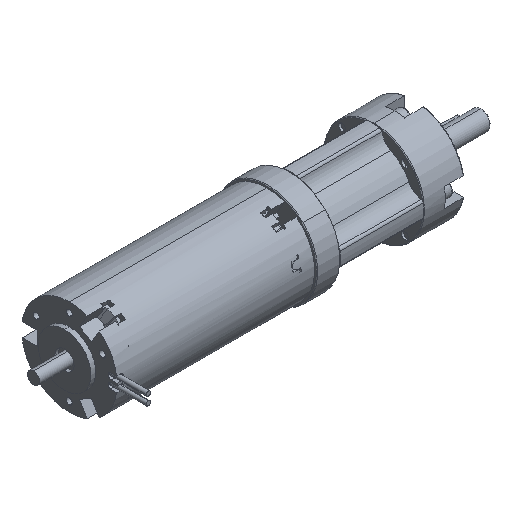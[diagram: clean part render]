
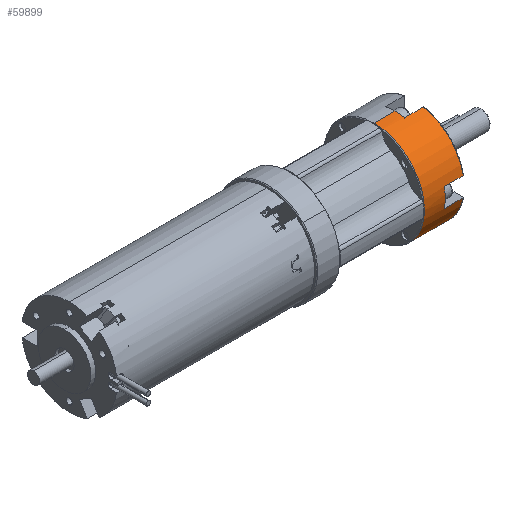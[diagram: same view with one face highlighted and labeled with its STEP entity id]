
A CAD part, isometric view. The second image highlights one B-rep face of the part: STEP entity #59899.
In plain terms, the highlighted cylindrical face has radius 21 mm (diameter 42 mm), a partial arc.
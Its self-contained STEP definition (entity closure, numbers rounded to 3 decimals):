
#309 = CARTESIAN_POINT ( 'NONE',  ( 16.9, 0., 0. ) ) ;
#398 = VECTOR ( 'NONE', #35212, 1000. ) ;
#1739 = EDGE_CURVE ( 'NONE', #52056, #5142, #7534, .T. ) ;
#2238 = ORIENTED_EDGE ( 'NONE', *, *, #1739, .T. ) ;
#2377 = DIRECTION ( 'NONE',  ( 1., 0., 0. ) ) ;
#3571 = EDGE_CURVE ( 'NONE', #17290, #35685, #38278, .T. ) ;
#3595 = DIRECTION ( 'NONE',  ( 1., 0., 0. ) ) ;
#4086 = EDGE_LOOP ( 'NONE', ( #42313, #50264, #49887, #52869, #4437, #33200, #46799, #46999, #2238, #21415, #53560, #12271 ) ) ;
#4437 = ORIENTED_EDGE ( 'NONE', *, *, #52957, .T. ) ;
#4587 = EDGE_CURVE ( 'NONE', #38934, #14388, #8247, .T. ) ;
#5142 = VERTEX_POINT ( 'NONE', #52633 ) ;
#5188 = DIRECTION ( 'NONE',  ( 0., 0., -1. ) ) ;
#5763 = VERTEX_POINT ( 'NONE', #27066 ) ;
#6647 = CARTESIAN_POINT ( 'NONE',  ( -3.37, 0., 21. ) ) ;
#6993 = EDGE_CURVE ( 'NONE', #27736, #38934, #38469, .T. ) ;
#7534 = LINE ( 'NONE', #46603, #44034 ) ;
#8247 = LINE ( 'NONE', #38077, #33642 ) ;
#10322 = CARTESIAN_POINT ( 'NONE',  ( 9., -20.616, -4. ) ) ;
#11968 = EDGE_CURVE ( 'NONE', #21560, #30659, #17160, .T. ) ;
#12160 = AXIS2_PLACEMENT_3D ( 'NONE', #51875, #23399, #56684 ) ;
#12271 = ORIENTED_EDGE ( 'NONE', *, *, #30982, .T. ) ;
#14388 = VERTEX_POINT ( 'NONE', #61698 ) ;
#14762 = AXIS2_PLACEMENT_3D ( 'NONE', #31118, #2377, #35901 ) ;
#14962 = VERTEX_POINT ( 'NONE', #15495 ) ;
#15495 = CARTESIAN_POINT ( 'NONE',  ( 16.9, -4., -20.616 ) ) ;
#15676 = EDGE_CURVE ( 'NONE', #27736, #5763, #25535, .T. ) ;
#17160 = LINE ( 'NONE', #22661, #29860 ) ;
#17290 = VERTEX_POINT ( 'NONE', #22234 ) ;
#17706 = EDGE_CURVE ( 'NONE', #30659, #52056, #40911, .T. ) ;
#18502 = CARTESIAN_POINT ( 'NONE',  ( 9., 0., 0. ) ) ;
#19308 = CARTESIAN_POINT ( 'NONE',  ( 9., -20.616, 4. ) ) ;
#21155 = CARTESIAN_POINT ( 'NONE',  ( 9., 0., 0. ) ) ;
#21415 = ORIENTED_EDGE ( 'NONE', *, *, #31531, .T. ) ;
#21560 = VERTEX_POINT ( 'NONE', #49414 ) ;
#22234 = CARTESIAN_POINT ( 'NONE',  ( 16.9, -4., 20.616 ) ) ;
#22661 = CARTESIAN_POINT ( 'NONE',  ( -3.37, -20.616, -4. ) ) ;
#22723 = DIRECTION ( 'NONE',  ( -1., 0., 0. ) ) ;
#23200 = CARTESIAN_POINT ( 'NONE',  ( 0.3, 0., -21. ) ) ;
#23265 = DIRECTION ( 'NONE',  ( 0., 0., -1. ) ) ;
#23399 = DIRECTION ( 'NONE',  ( -1., 0., 0. ) ) ;
#24412 = VERTEX_POINT ( 'NONE', #38522 ) ;
#24733 = FACE_OUTER_BOUND ( 'NONE', #4086, .T. ) ;
#25535 = LINE ( 'NONE', #6647, #38214 ) ;
#25586 = EDGE_CURVE ( 'NONE', #14388, #24412, #44318, .T. ) ;
#25602 = VECTOR ( 'NONE', #30057, 1000. ) ;
#25954 = DIRECTION ( 'NONE',  ( 0., 0., -1. ) ) ;
#25958 = LINE ( 'NONE', #30432, #398 ) ;
#26624 = CARTESIAN_POINT ( 'NONE',  ( -3.37, 0., 0. ) ) ;
#26697 = CARTESIAN_POINT ( 'NONE',  ( -3.37, -4., 20.616 ) ) ;
#27066 = CARTESIAN_POINT ( 'NONE',  ( 9., 0., 21. ) ) ;
#27736 = VERTEX_POINT ( 'NONE', #60729 ) ;
#29860 = VECTOR ( 'NONE', #51329, 1000. ) ;
#30057 = DIRECTION ( 'NONE',  ( -1., 0., 0. ) ) ;
#30432 = CARTESIAN_POINT ( 'NONE',  ( -3.37, -4., -20.616 ) ) ;
#30659 = VERTEX_POINT ( 'NONE', #10322 ) ;
#30982 = EDGE_CURVE ( 'NONE', #35685, #5763, #47838, .T. ) ;
#31104 = EDGE_CURVE ( 'NONE', #14962, #21560, #56068, .T. ) ;
#31118 = CARTESIAN_POINT ( 'NONE',  ( 0.3, 0., 0. ) ) ;
#31393 = AXIS2_PLACEMENT_3D ( 'NONE', #309, #33860, #5188 ) ;
#31507 = AXIS2_PLACEMENT_3D ( 'NONE', #18502, #51737, #23265 ) ;
#31531 = EDGE_CURVE ( 'NONE', #5142, #17290, #47133, .T. ) ;
#32153 = CARTESIAN_POINT ( 'NONE',  ( 9., -4., 20.616 ) ) ;
#33200 = ORIENTED_EDGE ( 'NONE', *, *, #31104, .T. ) ;
#33642 = VECTOR ( 'NONE', #37929, 1000. ) ;
#33860 = DIRECTION ( 'NONE',  ( -1., 0., 0. ) ) ;
#35212 = DIRECTION ( 'NONE',  ( 1., 0., 0. ) ) ;
#35685 = VERTEX_POINT ( 'NONE', #32153 ) ;
#35901 = DIRECTION ( 'NONE',  ( 0., 0., -1. ) ) ;
#37929 = DIRECTION ( 'NONE',  ( 1., 0., 0. ) ) ;
#38077 = CARTESIAN_POINT ( 'NONE',  ( -3.37, 0., -21. ) ) ;
#38214 = VECTOR ( 'NONE', #49518, 1000. ) ;
#38278 = LINE ( 'NONE', #26697, #25602 ) ;
#38469 = CIRCLE ( 'NONE', #14762, 21. ) ;
#38522 = CARTESIAN_POINT ( 'NONE',  ( 9., -4., -20.616 ) ) ;
#38567 = AXIS2_PLACEMENT_3D ( 'NONE', #51195, #22723, #56011 ) ;
#38934 = VERTEX_POINT ( 'NONE', #23200 ) ;
#40911 = CIRCLE ( 'NONE', #48881, 21. ) ;
#41839 = AXIS2_PLACEMENT_3D ( 'NONE', #26624, #45312, #54868 ) ;
#42313 = ORIENTED_EDGE ( 'NONE', *, *, #15676, .F. ) ;
#44034 = VECTOR ( 'NONE', #3595, 1000. ) ;
#44318 = CIRCLE ( 'NONE', #31507, 21. ) ;
#45312 = DIRECTION ( 'NONE',  ( 1., 0., 0. ) ) ;
#46603 = CARTESIAN_POINT ( 'NONE',  ( -3.37, -20.616, 4. ) ) ;
#46799 = ORIENTED_EDGE ( 'NONE', *, *, #11968, .T. ) ;
#46999 = ORIENTED_EDGE ( 'NONE', *, *, #17706, .T. ) ;
#47133 = CIRCLE ( 'NONE', #38567, 21. ) ;
#47838 = CIRCLE ( 'NONE', #12160, 21. ) ;
#48881 = AXIS2_PLACEMENT_3D ( 'NONE', #21155, #54427, #25954 ) ;
#49414 = CARTESIAN_POINT ( 'NONE',  ( 16.9, -20.616, -4. ) ) ;
#49518 = DIRECTION ( 'NONE',  ( 1., 0., 0. ) ) ;
#49887 = ORIENTED_EDGE ( 'NONE', *, *, #4587, .T. ) ;
#50264 = ORIENTED_EDGE ( 'NONE', *, *, #6993, .T. ) ;
#51195 = CARTESIAN_POINT ( 'NONE',  ( 16.9, 0., 0. ) ) ;
#51329 = DIRECTION ( 'NONE',  ( -1., 0., 0. ) ) ;
#51737 = DIRECTION ( 'NONE',  ( -1., 0., 0. ) ) ;
#51875 = CARTESIAN_POINT ( 'NONE',  ( 9., 0., 0. ) ) ;
#52056 = VERTEX_POINT ( 'NONE', #19308 ) ;
#52633 = CARTESIAN_POINT ( 'NONE',  ( 16.9, -20.616, 4. ) ) ;
#52869 = ORIENTED_EDGE ( 'NONE', *, *, #25586, .T. ) ;
#52957 = EDGE_CURVE ( 'NONE', #24412, #14962, #25958, .T. ) ;
#53560 = ORIENTED_EDGE ( 'NONE', *, *, #3571, .T. ) ;
#54427 = DIRECTION ( 'NONE',  ( -1., 0., 0. ) ) ;
#54868 = DIRECTION ( 'NONE',  ( 0., 0., -1. ) ) ;
#56011 = DIRECTION ( 'NONE',  ( 0., 0., -1. ) ) ;
#56068 = CIRCLE ( 'NONE', #31393, 21. ) ;
#56684 = DIRECTION ( 'NONE',  ( 0., 0., -1. ) ) ;
#58244 = CYLINDRICAL_SURFACE ( 'NONE', #41839, 21. ) ;
#59899 = ADVANCED_FACE ( 'NONE', ( #24733 ), #58244, .T. ) ;
#60729 = CARTESIAN_POINT ( 'NONE',  ( 0.3, 0., 21. ) ) ;
#61698 = CARTESIAN_POINT ( 'NONE',  ( 9., 0., -21. ) ) ;
